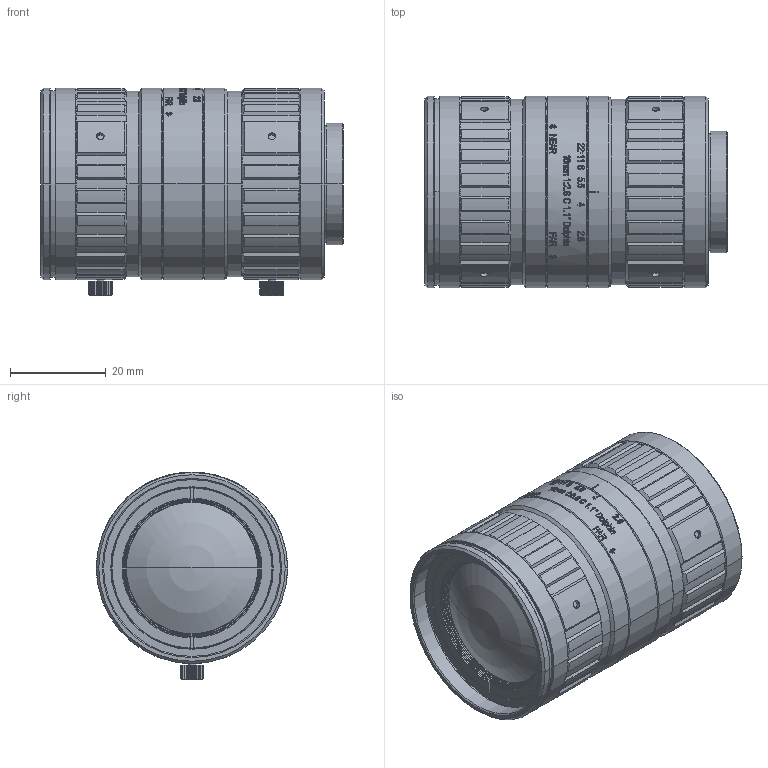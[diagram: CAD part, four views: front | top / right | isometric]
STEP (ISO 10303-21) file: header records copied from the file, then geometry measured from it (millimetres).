
FILE_DESCRIPTION((''),'2;1');
FILE_NAME('CDP1628-V1_0','2022-04-24T16:54:06',('dcsongs'),(''),'CREO PARAMETRIC BY PTC INC, 2020354','CREO PARAMETRIC BY PTC INC, 2020354','');
FILE_SCHEMA(('AUTOMOTIVE_DESIGN { 1 0 10303 214 1 1 1 1 }'));
Length unit declared in the file: millimetre
Products named in the file (1): CDP1628-V1_0
Bounding box: 63.25 x 40 x 43.45 mm (x, y, z)
Volume: 69095.7 mm3; surface area: 12674.1 mm2
Topology: 1 solids, 1 shells, 1515 faces, 4199 edges, 2774 vertices
Faces by surface type: plane 494, bspline 451, cylinder 438, cone 110, extrusion 16, sphere 4, torus 2
Entity records: 62713 total; most frequent: CARTESIAN_POINT 24604, ORIENTED_EDGE 8382, DIRECTION 5858, EDGE_CURVE 4191, VERTEX_POINT 2774, AXIS2_PLACEMENT_3D 2049, VECTOR 1760, LINE 1744
